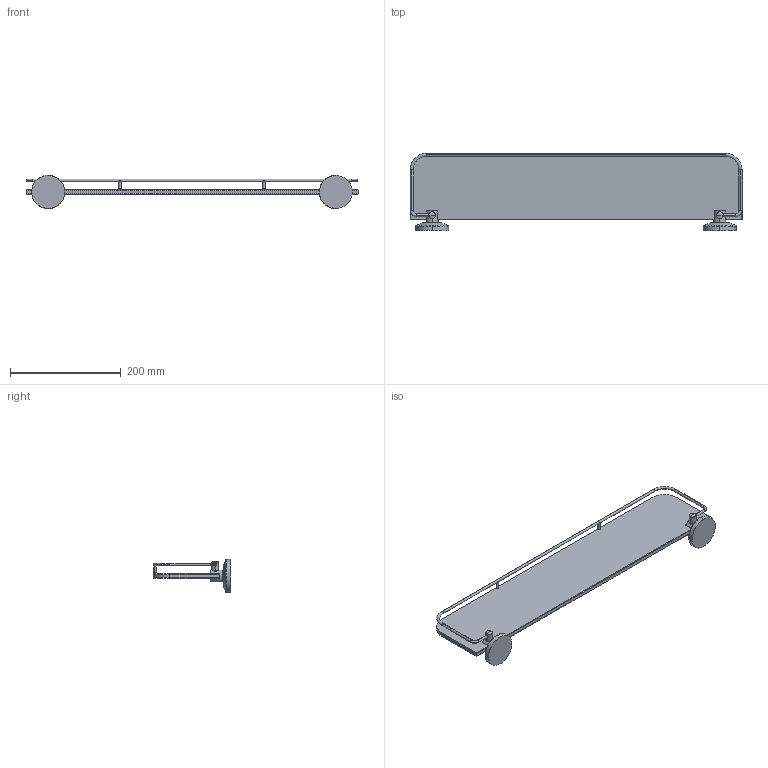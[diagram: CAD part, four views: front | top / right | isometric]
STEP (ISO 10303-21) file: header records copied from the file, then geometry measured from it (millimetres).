
FILE_DESCRIPTION(('THIS FILE CONTAINS SOME STEP INSTANCES'),'1');
FILE_NAME('sta_016.stp','2015-12-02T15:20:07',('UNDEFINED'),('UNDEFINED'),'T-FLEX CAD STEP converter','T-FLEX CAD','');
FILE_SCHEMA(('CONFIG_CONTROL_DESIGN'));
Length unit declared in the file: metre
Products named in the file (2): 3D 鐨飹懤艜_12; 610518
Bounding box: 600 x 140.1 x 60 mm (x, y, z)
Volume: 673020.2 mm3; surface area: 186817.3 mm2
Topology: 2 solids, 2 shells, 162 faces, 366 edges, 206 vertices
Faces by surface type: plane 46, cone 36, cylinder 28, bspline 26, torus 16, sphere 10
Entity records: 12167 total; most frequent: CARTESIAN_POINT 9047, ORIENTED_EDGE 724, DIRECTION 534, EDGE_CURVE 362, VERTEX_POINT 206, AXIS2_PLACEMENT_3D 191, EDGE_LOOP 164, ADVANCED_FACE 162
